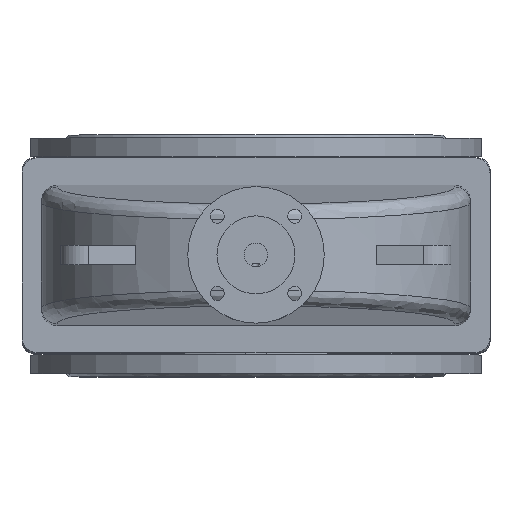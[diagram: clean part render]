
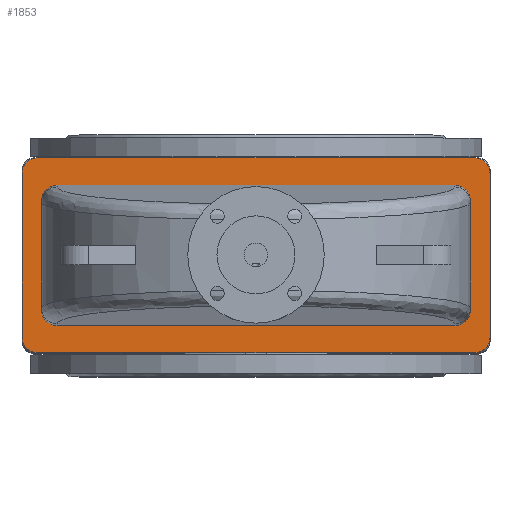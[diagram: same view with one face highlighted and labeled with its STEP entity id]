
A CAD part, top view. The second image highlights one B-rep face of the part: STEP entity #1853.
In plain terms, the highlighted planar face has unit normal (0, 0, 1).
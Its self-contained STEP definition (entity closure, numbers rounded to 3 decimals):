
#1853=ADVANCED_FACE('',(#5421,#5423),#5425,.T.);
#5421=FACE_BOUND('',#5422,.T.);
#5422=EDGE_LOOP('',(#7541,#7542,#7543,#7544,#7545,#7546,#7547,#7548));
#5423=FACE_BOUND('',#5424,.T.);
#5424=EDGE_LOOP('',(#7549,#7550,#7551,#7552,#7553,#7554,#7555,#7556));
#5425=PLANE('',#5426);
#5426=AXIS2_PLACEMENT_3D('',#5427,#5428,#5429);
#5427=CARTESIAN_POINT('',(0.,0.,466.));
#5428=DIRECTION('',(0.,-0.,1.));
#5429=DIRECTION('',(0.,1.,0.));
#7541=ORIENTED_EDGE('',*,*,#8281,.F.);
#7542=ORIENTED_EDGE('',*,*,#8294,.T.);
#7543=ORIENTED_EDGE('',*,*,#8293,.F.);
#7544=ORIENTED_EDGE('',*,*,#8291,.T.);
#7545=ORIENTED_EDGE('',*,*,#8289,.F.);
#7546=ORIENTED_EDGE('',*,*,#8287,.T.);
#7547=ORIENTED_EDGE('',*,*,#8285,.F.);
#7548=ORIENTED_EDGE('',*,*,#8282,.T.);
#7549=ORIENTED_EDGE('',*,*,#8295,.F.);
#7550=ORIENTED_EDGE('',*,*,#8296,.F.);
#7551=ORIENTED_EDGE('',*,*,#8297,.F.);
#7552=ORIENTED_EDGE('',*,*,#8298,.F.);
#7553=ORIENTED_EDGE('',*,*,#8299,.F.);
#7554=ORIENTED_EDGE('',*,*,#8300,.F.);
#7555=ORIENTED_EDGE('',*,*,#8301,.F.);
#7556=ORIENTED_EDGE('',*,*,#8302,.F.);
#8281=EDGE_CURVE('',#9327,#9325,#9329,.F.);
#8282=EDGE_CURVE('',#9330,#9325,#9331,.T.);
#8285=EDGE_CURVE('',#9330,#9333,#9335,.F.);
#8287=EDGE_CURVE('',#9336,#9333,#9338,.T.);
#8289=EDGE_CURVE('',#9336,#9339,#9341,.F.);
#8291=EDGE_CURVE('',#9342,#9339,#9344,.T.);
#8293=EDGE_CURVE('',#9342,#9345,#9347,.F.);
#8294=EDGE_CURVE('',#9327,#9345,#9348,.T.);
#8295=EDGE_CURVE('',#9349,#9350,#9351,.F.);
#8296=EDGE_CURVE('',#9352,#9349,#9353,.T.);
#8297=EDGE_CURVE('',#9354,#9352,#9355,.T.);
#8298=EDGE_CURVE('',#9356,#9354,#9357,.T.);
#8299=EDGE_CURVE('',#9358,#9356,#9359,.F.);
#8300=EDGE_CURVE('',#9360,#9358,#9361,.T.);
#8301=EDGE_CURVE('',#9362,#9360,#9363,.T.);
#8302=EDGE_CURVE('',#9350,#9362,#9364,.T.);
#9325=VERTEX_POINT('',#13883);
#9327=VERTEX_POINT('',#13887);
#9329=CIRCLE('',#13891,20.);
#9330=VERTEX_POINT('',#13895);
#9331=LINE('',#13896,#13897);
#9333=VERTEX_POINT('',#13902);
#9335=CIRCLE('',#13906,20.);
#9336=VERTEX_POINT('',#13910);
#9338=LINE('',#13914,#13915);
#9339=VERTEX_POINT('',#13917);
#9341=CIRCLE('',#13921,20.);
#9342=VERTEX_POINT('',#13925);
#9344=LINE('',#13929,#13930);
#9345=VERTEX_POINT('',#13932);
#9347=CIRCLE('',#13936,20.);
#9348=LINE('',#13940,#13941);
#9349=VERTEX_POINT('',#13943);
#9350=VERTEX_POINT('',#13944);
#9351=(BOUNDED_CURVE()B_SPLINE_CURVE(3,
(#13945,#13946,#13947,#13948),
.UNSPECIFIED.,.F.,.F.)B_SPLINE_CURVE_WITH_KNOTS((4,4),
(0.,1.),
.UNSPECIFIED.)CURVE()GEOMETRIC_REPRESENTATION_ITEM()RATIONAL_B_SPLINE_CURVE((1.,
0.805,0.805,1.))REPRESENTATION_ITEM(''));
#9352=VERTEX_POINT('',#13949);
#9353=LINE('',#13950,#13951);
#9354=VERTEX_POINT('',#13953);
#9355=(BOUNDED_CURVE()B_SPLINE_CURVE(3,
(#13954,#13955,#13956,#13957),
.UNSPECIFIED.,.F.,.F.)B_SPLINE_CURVE_WITH_KNOTS((4,4),
(0.,1.),
.UNSPECIFIED.)CURVE()GEOMETRIC_REPRESENTATION_ITEM()RATIONAL_B_SPLINE_CURVE((1.,
0.805,0.805,1.))REPRESENTATION_ITEM(''));
#9356=VERTEX_POINT('',#13958);
#9357=LINE('',#13959,#13960);
#9358=VERTEX_POINT('',#13962);
#9359=(BOUNDED_CURVE()B_SPLINE_CURVE(3,
(#13963,#13964,#13965,#13966),
.UNSPECIFIED.,.F.,.F.)B_SPLINE_CURVE_WITH_KNOTS((4,4),
(0.,1.),
.UNSPECIFIED.)CURVE()GEOMETRIC_REPRESENTATION_ITEM()RATIONAL_B_SPLINE_CURVE((1.,
0.805,0.805,1.))REPRESENTATION_ITEM(''));
#9360=VERTEX_POINT('',#13967);
#9361=LINE('',#13968,#13969);
#9362=VERTEX_POINT('',#13971);
#9363=(BOUNDED_CURVE()B_SPLINE_CURVE(3,
(#13972,#13973,#13974,#13975),
.UNSPECIFIED.,.F.,.F.)B_SPLINE_CURVE_WITH_KNOTS((4,4),
(0.,1.),
.UNSPECIFIED.)CURVE()GEOMETRIC_REPRESENTATION_ITEM()RATIONAL_B_SPLINE_CURVE((1.,
0.805,0.805,1.))REPRESENTATION_ITEM(''));
#9364=LINE('',#13976,#13977);
#13883=CARTESIAN_POINT('',(-300.,-105.,466.));
#13887=CARTESIAN_POINT('',(-280.,-125.,466.));
#13891=AXIS2_PLACEMENT_3D('',#13892,#13893,#13894);
#13892=CARTESIAN_POINT('',(-280.,-105.,466.));
#13893=DIRECTION('',(0.,-0.,1.));
#13894=DIRECTION('',(-1.,0.,0.));
#13895=CARTESIAN_POINT('',(-300.,105.,466.));
#13896=CARTESIAN_POINT('',(-300.,105.,466.));
#13897=VECTOR('',#13898,1.);
#13898=DIRECTION('',(0.,-1.,0.));
#13902=CARTESIAN_POINT('',(-280.,125.,466.));
#13906=AXIS2_PLACEMENT_3D('',#13907,#13908,#13909);
#13907=CARTESIAN_POINT('',(-280.,105.,466.));
#13908=DIRECTION('',(0.,-0.,1.));
#13909=DIRECTION('',(0.,1.,0.));
#13910=CARTESIAN_POINT('',(280.,125.,466.));
#13914=CARTESIAN_POINT('',(280.,125.,466.));
#13915=VECTOR('',#13916,1.);
#13916=DIRECTION('',(-1.,0.,0.));
#13917=CARTESIAN_POINT('',(300.,105.,466.));
#13921=AXIS2_PLACEMENT_3D('',#13922,#13923,#13924);
#13922=CARTESIAN_POINT('',(280.,105.,466.));
#13923=DIRECTION('',(0.,-0.,1.));
#13924=DIRECTION('',(1.,0.,0.));
#13925=CARTESIAN_POINT('',(300.,-105.,466.));
#13929=CARTESIAN_POINT('',(300.,-105.,466.));
#13930=VECTOR('',#13931,1.);
#13931=DIRECTION('',(0.,1.,0.));
#13932=CARTESIAN_POINT('',(280.,-125.,466.));
#13936=AXIS2_PLACEMENT_3D('',#13937,#13938,#13939);
#13937=CARTESIAN_POINT('',(280.,-105.,466.));
#13938=DIRECTION('',(0.,-0.,1.));
#13939=DIRECTION('',(0.,-1.,0.));
#13940=CARTESIAN_POINT('',(-280.,-125.,466.));
#13941=VECTOR('',#13942,1.);
#13942=DIRECTION('',(1.,0.,0.));
#13943=CARTESIAN_POINT('',(255.,-90.,466.));
#13944=CARTESIAN_POINT('',(275.,-69.924,466.));
#13945=CARTESIAN_POINT('',(275.,-69.924,466.));
#13946=CARTESIAN_POINT('',(275.,-81.684,466.));
#13947=CARTESIAN_POINT('',(266.716,-90.,466.));
#13948=CARTESIAN_POINT('',(255.,-90.,466.));
#13949=CARTESIAN_POINT('',(-255.,-90.,466.));
#13950=CARTESIAN_POINT('',(-255.,-90.,466.));
#13951=VECTOR('',#13952,1.);
#13952=DIRECTION('',(1.,0.,0.));
#13953=CARTESIAN_POINT('',(-275.,-69.924,466.));
#13954=CARTESIAN_POINT('',(-275.,-69.924,466.));
#13955=CARTESIAN_POINT('',(-275.,-81.684,466.));
#13956=CARTESIAN_POINT('',(-266.716,-90.,466.));
#13957=CARTESIAN_POINT('',(-255.,-90.,466.));
#13958=CARTESIAN_POINT('',(-275.,69.924,466.));
#13959=CARTESIAN_POINT('',(-275.,69.924,466.));
#13960=VECTOR('',#13961,1.);
#13961=DIRECTION('',(0.,-1.,0.));
#13962=CARTESIAN_POINT('',(-255.,90.,466.));
#13963=CARTESIAN_POINT('',(-275.,69.924,466.));
#13964=CARTESIAN_POINT('',(-275.,81.684,466.));
#13965=CARTESIAN_POINT('',(-266.716,90.,466.));
#13966=CARTESIAN_POINT('',(-255.,90.,466.));
#13967=CARTESIAN_POINT('',(255.,90.,466.));
#13968=CARTESIAN_POINT('',(255.,90.,466.));
#13969=VECTOR('',#13970,1.);
#13970=DIRECTION('',(-1.,0.,0.));
#13971=CARTESIAN_POINT('',(275.,69.924,466.));
#13972=CARTESIAN_POINT('',(275.,69.924,466.));
#13973=CARTESIAN_POINT('',(275.,81.684,466.));
#13974=CARTESIAN_POINT('',(266.716,90.,466.));
#13975=CARTESIAN_POINT('',(255.,90.,466.));
#13976=CARTESIAN_POINT('',(275.,-69.924,466.));
#13977=VECTOR('',#13978,1.);
#13978=DIRECTION('',(0.,1.,0.));
